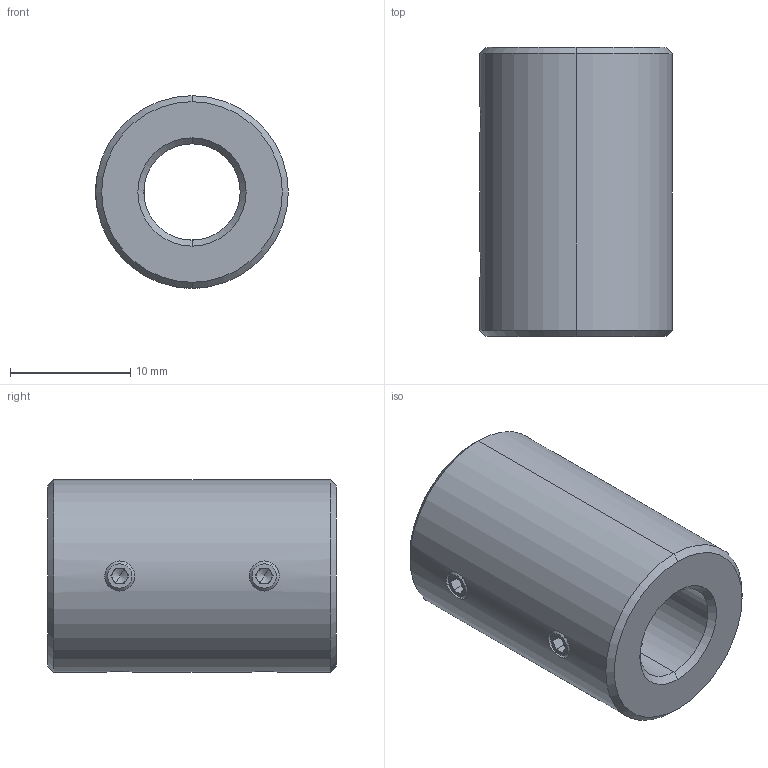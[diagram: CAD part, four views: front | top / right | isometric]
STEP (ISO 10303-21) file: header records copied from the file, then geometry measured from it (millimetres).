
FILE_DESCRIPTION (( 'STEP AP214' ), '1' );
FILE_NAME ('LL-D-D16L24-8-8.STEP', '2022-07-23T07:07:15', ( '' ), ( '' ), 'SwSTEP 2.0', 'SolidWorks 2022', '' );
FILE_SCHEMA (( 'AUTOMOTIVE_DESIGN' ));
Length unit declared in the file: millimetre
Products named in the file (1): LL-D-D16L24-8-8
Bounding box: 16 x 24 x 16 mm (x, y, z)
Volume: 3587.8 mm3; surface area: 2122.1 mm2
Topology: 1 solids, 1 shells, 110 faces, 280 edges, 172 vertices
Faces by surface type: plane 58, cone 32, cylinder 20
Entity records: 3566 total; most frequent: CARTESIAN_POINT 883, DIRECTION 566, ORIENTED_EDGE 544, EDGE_CURVE 272, AXIS2_PLACEMENT_3D 207, VERTEX_POINT 172, VECTOR 152, LINE 152
